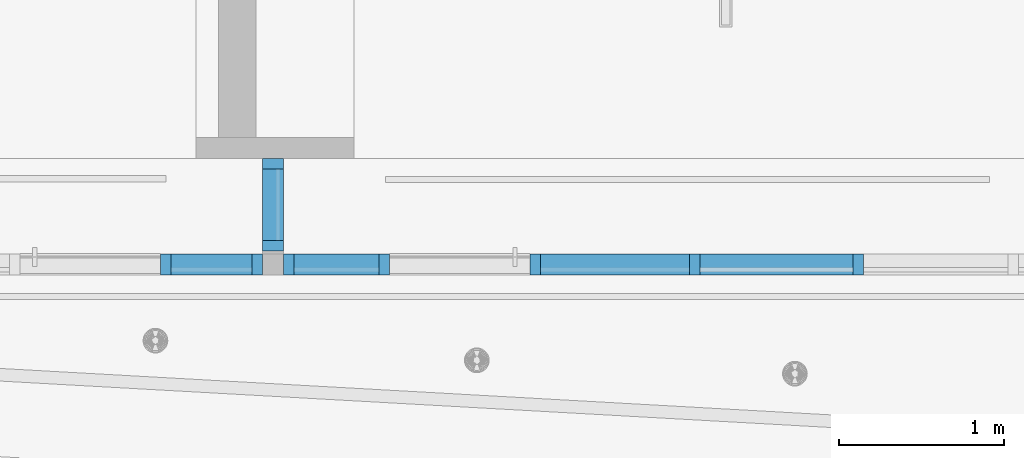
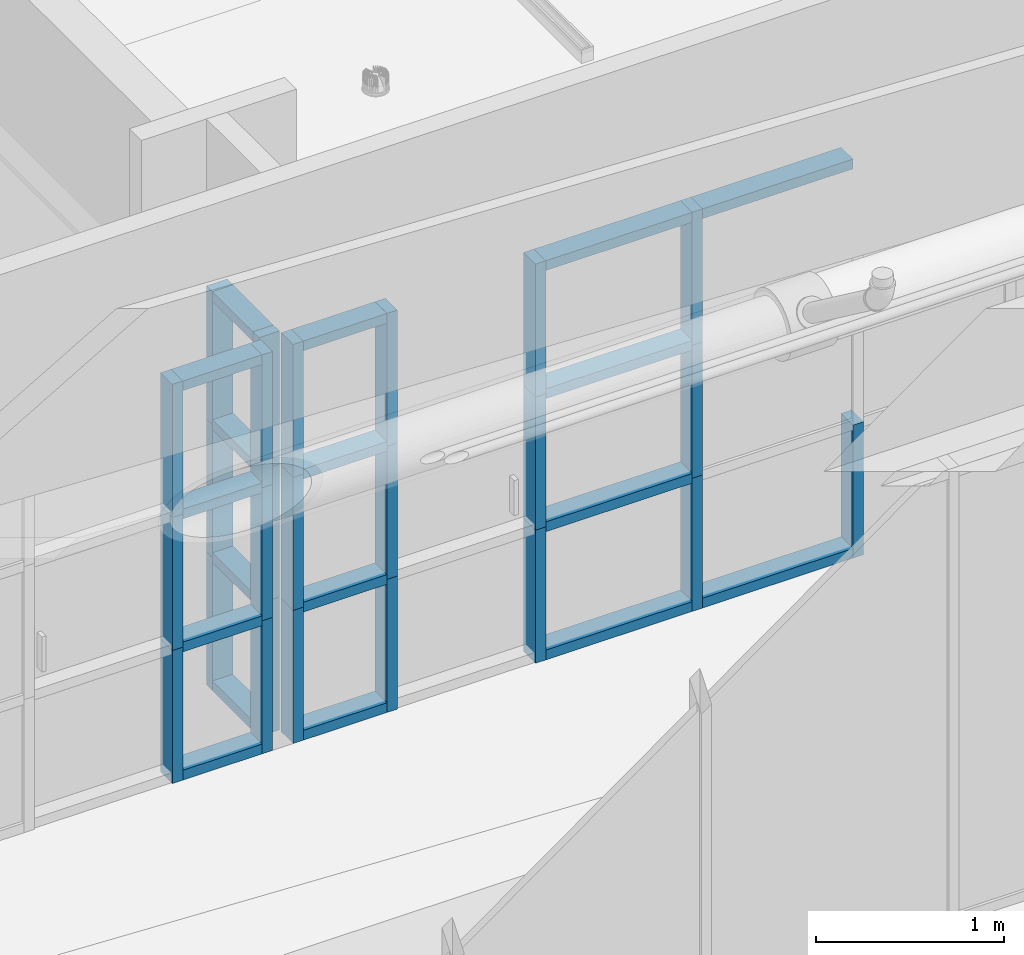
# One storey, part 5 of 108: 43 members, 3 elements without a shape of their own.
"""IFC4 building model written with IfcOpenShell, lengths in feet."""

from ifc_helpers import new_model, entity, si_unit, converted_unit, derived_unit, direction, frame, origin, origin_2d_with_axis, place, context, subcontext, project, spatial, rectangle, extrude, source, transform, mapped, material, material_profile, profile_set, profile_usage, type_object, type_shapes, element, aggregate, save


model = new_model("IFC4")

# Units and contexts
model_context = context("Model", 3, precision=0.0001, world=origin(), true_north=direction((6.12303176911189e-17, 1.0)))
body_context = subcontext(model_context, "Body", "Model", "MODEL_VIEW")
ifc_project = project(units=[converted_unit("LENGTHUNIT", "FOOT", entity("IfcRatioMeasure", 0.3048), si_unit("LENGTHUNIT", "METRE"), dimensions=[1, 0, 0, 0, 0, 0, 0]), converted_unit("AREAUNIT", "SQUARE FOOT", entity("IfcRatioMeasure", 0.09290304), si_unit("AREAUNIT", "SQUARE_METRE"), dimensions=[2, 0, 0, 0, 0, 0, 0]), converted_unit("VOLUMEUNIT", "CUBIC FOOT", entity("IfcRatioMeasure", 0.028316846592), si_unit("VOLUMEUNIT", "CUBIC_METRE"), dimensions=[3, 0, 0, 0, 0, 0, 0]), converted_unit("PLANEANGLEUNIT", "DEGREE", entity("IfcRatioMeasure", 0.0174532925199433), si_unit("PLANEANGLEUNIT", "RADIAN"), dimensions=[0, 0, 0, 0, 0, 0, 0]), si_unit("MASSUNIT", "GRAM", prefix="KILO"), derived_unit("MASSDENSITYUNIT", [(si_unit("MASSUNIT", "GRAM", prefix="KILO"), 1), (si_unit("LENGTHUNIT", "METRE"), -3)]), si_unit("TIMEUNIT", "SECOND"), si_unit("FREQUENCYUNIT", "HERTZ"), si_unit("THERMODYNAMICTEMPERATUREUNIT", "DEGREE_CELSIUS"), derived_unit("THERMALTRANSMITTANCEUNIT", [(si_unit("MASSUNIT", "GRAM", prefix="KILO"), 1), (si_unit("THERMODYNAMICTEMPERATUREUNIT", "KELVIN"), -1), (si_unit("TIMEUNIT", "SECOND"), -3)]), derived_unit("VOLUMETRICFLOWRATEUNIT", [(si_unit("LENGTHUNIT", "METRE"), 3), (si_unit("TIMEUNIT", "SECOND"), -1)]), si_unit("ELECTRICCURRENTUNIT", "AMPERE"), si_unit("ELECTRICVOLTAGEUNIT", "VOLT"), si_unit("POWERUNIT", "WATT"), si_unit("FORCEUNIT", "NEWTON"), si_unit("ILLUMINANCEUNIT", "LUX"), si_unit("LUMINOUSFLUXUNIT", "LUMEN"), si_unit("LUMINOUSINTENSITYUNIT", "CANDELA"), derived_unit("USERDEFINED", [(si_unit("MASSUNIT", "GRAM", prefix="KILO"), -1), (si_unit("LENGTHUNIT", "METRE"), -2), (si_unit("TIMEUNIT", "SECOND"), 3), (si_unit("LUMINOUSFLUXUNIT", "LUMEN"), 1)]), derived_unit("LINEARVELOCITYUNIT", [(si_unit("LENGTHUNIT", "METRE"), 1), (si_unit("TIMEUNIT", "SECOND"), -1)]), si_unit("PRESSUREUNIT", "PASCAL"), derived_unit("USERDEFINED", [(si_unit("LENGTHUNIT", "METRE"), -2), (si_unit("MASSUNIT", "GRAM", prefix="KILO"), 1), (si_unit("TIMEUNIT", "SECOND"), -2)])], contexts=[model_context])

# Site, building, storey
site_placement = place(None, origin())
site = spatial("IfcSite", under=ifc_project, at=site_placement, Name="Default", CompositionType="ELEMENT")
building_placement = place(site_placement, origin())
building = spatial("IfcBuilding", under=site, at=building_placement, CompositionType="ELEMENT")
storey_placement = place(building_placement, frame((0.0, 0.0, 168.0)))
storey = spatial("IfcBuildingStorey", under=building, at=storey_placement, Name="Level 15", CompositionType="ELEMENT", Elevation=168.0)

# Curtain wall, member
curtain_wall_type = type_object("IfcCurtainWallType", Name="Curtain Wall:Storefront 02", PredefinedType="NOTDEFINED")
curtain_wall_1_placement = place(storey_placement, frame((0.0, 0.0, -168.0)))
curtain_wall_1 = element("IfcCurtainWall", 1, at=curtain_wall_1_placement, inside=storey, type_object=curtain_wall_type, Name="Curtain Wall:Storefront 02", ObjectType="Curtain Wall:Storefront 02", PredefinedType="NOTDEFINED")
ifc_material = material(Name="Aluminum", Category="Metal")
ifc_material_profile = material_profile(ifc_material, rectangle(XDim=0.416666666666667, YDim=0.208333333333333, at=origin_2d_with_axis()), Name="2.5\" x 5\" rectangular")
ifc_profile_set = profile_set([ifc_material_profile], Name="2.5\" x 5\" rectangular")
ifc_profile_usage_1 = profile_usage(ifc_profile_set)
member_type_1 = type_object("IfcMemberType", Name="2.5\" x 5\" rectangular", PredefinedType="MEMBER", material=ifc_profile_set)
shared_shape_1 = source(origin(), body_context, "Body", "SweptSolid", [
    extrude(rectangle(XDim=0.416666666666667, YDim=0.208333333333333, at=origin_2d_with_axis()), frame((-0.104166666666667, 0.0, -2.84094160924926), z_axis=(0.0, 0.0, 1.0), x_axis=(0.0, -1.0, 0.0)), (0.0, 0.0, 1.0), 2.84094160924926),
])
type_shapes(member_type_1, [shared_shape_1])
member_1_placement = place(storey_placement, frame((13.422037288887, -11.8802703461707, 0.0), z_axis=(0.0, 0.0, -1.0), x_axis=(-1.0, 0.0, 0.0)))
member_1 = element("IfcMember", 2, at=member_1_placement, type_object=member_type_1, material=ifc_profile_usage_1, Name="Rectangular Mullion:2.5\" x 5\" rectangular", ObjectType="Rectangular Mullion:2.5\" x 5\" rectangular", PredefinedType="MULLION", context=body_context, shape_type="MappedRepresentation", body=[
    mapped(shared_shape_1, transform((0.0, 0.0, 0.0), scale=1.0)),
])

# Curtain wall, members
curtain_wall_2_placement = place(storey_placement, frame((0.0, 0.0, -168.0)))
curtain_wall_2 = element("IfcCurtainWall", 3, at=curtain_wall_2_placement, inside=storey, type_object=curtain_wall_type, Name="Curtain Wall:Storefront 02", ObjectType="Curtain Wall:Storefront 02", PredefinedType="NOTDEFINED")
ifc_profile_usage_2 = profile_usage(ifc_profile_set)
member_2_placement = place(storey_placement, frame((13.2137039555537, -11.609601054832, 0.0), z_axis=(0.0, 0.0, -1.0), x_axis=(0.0, -1.0, 0.0)))
member_2 = element("IfcMember", 4, at=member_2_placement, type_object=member_type_1, material=ifc_profile_usage_2, Name="Rectangular Mullion:2.5\" x 5\" rectangular", ObjectType="Rectangular Mullion:2.5\" x 5\" rectangular", PredefinedType="MULLION", context=body_context, shape_type="MappedRepresentation", body=[
    mapped(shared_shape_1, transform((0.0, 0.0, 0.0), scale=1.0)),
])
ifc_profile_usage_3 = profile_usage(ifc_profile_set)
member_type_2 = type_object("IfcMemberType", Name="2.5\" x 5\" rectangular", PredefinedType="MEMBER", material=ifc_profile_set)
shared_shape_2 = source(origin(), body_context, "Body", "SweptSolid", [
    extrude(rectangle(XDim=0.416666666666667, YDim=0.208333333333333, at=origin_2d_with_axis()), frame((-0.104166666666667, 0.0, -2.84094160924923), z_axis=(0.0, 0.0, 1.0), x_axis=(0.0, -1.0, 0.0)), (0.0, 0.0, 1.0), 2.84094160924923),
])
type_shapes(member_type_2, [shared_shape_2])
member_3_placement = place(storey_placement, frame((13.2137039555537, -9.7762677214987, 8.52282482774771), z_axis=(0.0, 0.0, 1.0), x_axis=(0.0, 1.0, 0.0)))
member_3 = element("IfcMember", 5, at=member_3_placement, type_object=member_type_2, material=ifc_profile_usage_3, Name="Rectangular Mullion:2.5\" x 5\" rectangular", ObjectType="Rectangular Mullion:2.5\" x 5\" rectangular", PredefinedType="MULLION", context=body_context, shape_type="MappedRepresentation", body=[
    mapped(shared_shape_2, transform((0.0, 0.0, 0.0), scale=1.0)),
])

# Curtain wall, member
curtain_wall_3_placement = place(storey_placement, frame((0.0, 0.0, -168.0)))
curtain_wall_3 = element("IfcCurtainWall", 6, at=curtain_wall_3_placement, inside=storey, type_object=curtain_wall_type, Name="Curtain Wall:Storefront 02", ObjectType="Curtain Wall:Storefront 02", PredefinedType="NOTDEFINED")
ifc_profile_usage_4 = profile_usage(ifc_profile_set)
member_4_placement = place(storey_placement, frame((13.0053706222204, -11.8802703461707, 8.52282482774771)))
member_4 = element("IfcMember", 7, at=member_4_placement, type_object=member_type_2, material=ifc_profile_usage_4, Name="Rectangular Mullion:2.5\" x 5\" rectangular", ObjectType="Rectangular Mullion:2.5\" x 5\" rectangular", PredefinedType="MULLION", context=body_context, shape_type="MappedRepresentation", body=[
    mapped(shared_shape_2, transform((0.0, 0.0, 0.0), scale=1.0)),
])

# Member
ifc_profile_usage_5 = profile_usage(ifc_profile_set)
member_type_3 = type_object("IfcMemberType", Name="2.5\" x 5\" rectangular", PredefinedType="MEMBER", material=ifc_profile_set)
shared_shape_3 = source(origin(), body_context, "Body", "SweptSolid", [
    extrude(rectangle(XDim=0.416666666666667, YDim=0.208333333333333, at=origin_2d_with_axis()), frame((-0.104166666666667, 0.0, -2.84094160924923), z_axis=(0.0, 0.0, 1.0), x_axis=(0.0, -1.0, 0.0)), (0.0, 0.0, 1.0), 2.84094160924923),
])
type_shapes(member_type_3, [shared_shape_3])
member_5_placement = place(storey_placement, frame((13.422037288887, -11.8802703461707, 5.68188321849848), z_axis=(0.0, 0.0, -1.0), x_axis=(-1.0, 0.0, 0.0)))
member_5 = element("IfcMember", 8, at=member_5_placement, type_object=member_type_3, material=ifc_profile_usage_5, Name="Rectangular Mullion:2.5\" x 5\" rectangular", ObjectType="Rectangular Mullion:2.5\" x 5\" rectangular", PredefinedType="MULLION", context=body_context, shape_type="MappedRepresentation", body=[
    mapped(shared_shape_3, transform((0.0, 0.0, 0.0), scale=1.0)),
])

ifc_profile_usage_6 = profile_usage(ifc_profile_set)
member_6_placement = place(storey_placement, frame((13.2137039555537, -11.609601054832, 5.68188321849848), z_axis=(0.0, 0.0, -1.0), x_axis=(0.0, -1.0, 0.0)))
member_6 = element("IfcMember", 9, at=member_6_placement, type_object=member_type_3, material=ifc_profile_usage_6, Name="Rectangular Mullion:2.5\" x 5\" rectangular", ObjectType="Rectangular Mullion:2.5\" x 5\" rectangular", PredefinedType="MULLION", context=body_context, shape_type="MappedRepresentation", body=[
    mapped(shared_shape_3, transform((0.0, 0.0, 0.0), scale=1.0)),
])

ifc_profile_usage_7 = profile_usage(ifc_profile_set)
member_type_4 = type_object("IfcMemberType", Name="2.5\" x 5\" rectangular", PredefinedType="MEMBER", material=ifc_profile_set)
shared_shape_4 = source(origin(), body_context, "Body", "SweptSolid", [
    extrude(rectangle(XDim=0.416666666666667, YDim=0.208333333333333, at=origin_2d_with_axis()), frame((-0.104166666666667, 0.0, -2.84094160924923), z_axis=(0.0, 0.0, 1.0), x_axis=(0.0, -1.0, 0.0)), (0.0, 0.0, 1.0), 2.84094160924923),
])
type_shapes(member_type_4, [shared_shape_4])
member_7_placement = place(storey_placement, frame((13.2137039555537, -9.7762677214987, 5.68188321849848), z_axis=(0.0, 0.0, 1.0), x_axis=(0.0, 1.0, 0.0)))
member_7 = element("IfcMember", 10, at=member_7_placement, type_object=member_type_4, material=ifc_profile_usage_7, Name="Rectangular Mullion:2.5\" x 5\" rectangular", ObjectType="Rectangular Mullion:2.5\" x 5\" rectangular", PredefinedType="MULLION", context=body_context, shape_type="MappedRepresentation", body=[
    mapped(shared_shape_4, transform((0.0, 0.0, 0.0), scale=1.0)),
])

ifc_profile_usage_8 = profile_usage(ifc_profile_set)
member_8_placement = place(storey_placement, frame((13.0053706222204, -11.8802703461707, 5.68188321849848)))
member_8 = element("IfcMember", 11, at=member_8_placement, type_object=member_type_4, material=ifc_profile_usage_8, Name="Rectangular Mullion:2.5\" x 5\" rectangular", ObjectType="Rectangular Mullion:2.5\" x 5\" rectangular", PredefinedType="MULLION", context=body_context, shape_type="MappedRepresentation", body=[
    mapped(shared_shape_4, transform((0.0, 0.0, 0.0), scale=1.0)),
])

ifc_profile_usage_9 = profile_usage(ifc_profile_set)
member_type_5 = type_object("IfcMemberType", Name="2.5\" x 5\" rectangular", PredefinedType="MEMBER", material=ifc_profile_set)
shared_shape_5 = source(origin(), body_context, "Body", "SweptSolid", [
    extrude(rectangle(XDim=0.416666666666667, YDim=0.208333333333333, at=origin_2d_with_axis()), frame((-0.104166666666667, 0.0, -2.84094160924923), z_axis=(0.0, 0.0, 1.0), x_axis=(0.0, -1.0, 0.0)), (0.0, 0.0, 1.0), 2.84094160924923),
])
type_shapes(member_type_5, [shared_shape_5])
member_9_placement = place(storey_placement, frame((13.422037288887, -11.8802703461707, 2.84094160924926), z_axis=(0.0, 0.0, -1.0), x_axis=(-1.0, 0.0, 0.0)))
member_9 = element("IfcMember", 12, at=member_9_placement, type_object=member_type_5, material=ifc_profile_usage_9, Name="Rectangular Mullion:2.5\" x 5\" rectangular", ObjectType="Rectangular Mullion:2.5\" x 5\" rectangular", PredefinedType="MULLION", context=body_context, shape_type="MappedRepresentation", body=[
    mapped(shared_shape_5, transform((0.0, 0.0, 0.0), scale=1.0)),
])

ifc_profile_usage_10 = profile_usage(ifc_profile_set)
member_10_placement = place(storey_placement, frame((13.2137039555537, -11.609601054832, 2.84094160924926), z_axis=(0.0, 0.0, -1.0), x_axis=(0.0, -1.0, 0.0)))
member_10 = element("IfcMember", 13, at=member_10_placement, type_object=member_type_5, material=ifc_profile_usage_10, Name="Rectangular Mullion:2.5\" x 5\" rectangular", ObjectType="Rectangular Mullion:2.5\" x 5\" rectangular", PredefinedType="MULLION", context=body_context, shape_type="MappedRepresentation", body=[
    mapped(shared_shape_5, transform((0.0, 0.0, 0.0), scale=1.0)),
])

ifc_profile_usage_11 = profile_usage(ifc_profile_set)
member_type_6 = type_object("IfcMemberType", Name="2.5\" x 5\" rectangular", PredefinedType="MEMBER", material=ifc_profile_set)
shared_shape_6 = source(origin(), body_context, "Body", "SweptSolid", [
    extrude(rectangle(XDim=0.416666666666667, YDim=0.208333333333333, at=origin_2d_with_axis()), frame((-0.104166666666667, 0.0, -2.84094160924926), z_axis=(0.0, 0.0, 1.0), x_axis=(0.0, -1.0, 0.0)), (0.0, 0.0, 1.0), 2.84094160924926),
])
type_shapes(member_type_6, [shared_shape_6])
member_11_placement = place(storey_placement, frame((13.2137039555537, -9.7762677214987, 2.84094160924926), z_axis=(0.0, 0.0, 1.0), x_axis=(0.0, 1.0, 0.0)))
member_11 = element("IfcMember", 14, at=member_11_placement, type_object=member_type_6, material=ifc_profile_usage_11, Name="Rectangular Mullion:2.5\" x 5\" rectangular", ObjectType="Rectangular Mullion:2.5\" x 5\" rectangular", PredefinedType="MULLION", context=body_context, shape_type="MappedRepresentation", body=[
    mapped(shared_shape_6, transform((0.0, 0.0, 0.0), scale=1.0)),
])

ifc_profile_usage_12 = profile_usage(ifc_profile_set)
member_12_placement = place(storey_placement, frame((13.0053706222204, -11.8802703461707, 2.84094160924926)))
member_12 = element("IfcMember", 15, at=member_12_placement, type_object=member_type_6, material=ifc_profile_usage_12, Name="Rectangular Mullion:2.5\" x 5\" rectangular", ObjectType="Rectangular Mullion:2.5\" x 5\" rectangular", PredefinedType="MULLION", context=body_context, shape_type="MappedRepresentation", body=[
    mapped(shared_shape_6, transform((0.0, 0.0, 0.0), scale=1.0)),
])

ifc_profile_usage_13 = profile_usage(ifc_profile_set)
member_type_7 = type_object("IfcMemberType", Name="2.5\" x 5\" rectangular", PredefinedType="MEMBER", material=ifc_profile_set)
shared_shape_7 = source(origin(), body_context, "Body", "SweptSolid", [
    extrude(rectangle(XDim=0.416666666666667, YDim=0.208333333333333, at=origin_2d_with_axis()), frame((-0.104166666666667, 0.0, -1.6875), z_axis=(0.0, 0.0, 1.0), x_axis=(0.0, -1.0, 0.0)), (0.0, 0.0, 1.0), 1.6875),
])
type_shapes(member_type_7, [shared_shape_7])
member_13_placement = place(storey_placement, frame((13.6303706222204, -11.8802703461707, 8.52282482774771), z_axis=(-1.0, 0.0, 0.0), x_axis=(0.0, 0.0, 1.0)))
member_13 = element("IfcMember", 16, at=member_13_placement, type_object=member_type_7, material=ifc_profile_usage_13, Name="Rectangular Mullion:2.5\" x 5\" rectangular", ObjectType="Rectangular Mullion:2.5\" x 5\" rectangular", PredefinedType="MULLION", context=body_context, shape_type="MappedRepresentation", body=[
    mapped(shared_shape_7, transform((0.0, 0.0, 0.0), scale=1.0)),
])

ifc_profile_usage_14 = profile_usage(ifc_profile_set)
member_type_8 = type_object("IfcMemberType", Name="2.5\" x 5\" rectangular", PredefinedType="MEMBER", material=ifc_profile_set)
shared_shape_8 = source(origin(), body_context, "Body", "SweptSolid", [
    extrude(rectangle(XDim=0.416666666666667, YDim=0.208333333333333, at=origin_2d_with_axis()), frame((-0.104166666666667, 0.0, -1.60416666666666), z_axis=(0.0, 0.0, 1.0), x_axis=(0.0, -1.0, 0.0)), (0.0, 0.0, 1.0), 1.60416666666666),
])
type_shapes(member_type_8, [shared_shape_8])
member_14_placement = place(storey_placement, frame((12.797037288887, -11.8802703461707, 0.0), z_axis=(1.0, 0.0, 0.0), x_axis=(0.0, 0.0, -1.0)))
member_14 = element("IfcMember", 17, at=member_14_placement, type_object=member_type_8, material=ifc_profile_usage_14, Name="Rectangular Mullion:2.5\" x 5\" rectangular", ObjectType="Rectangular Mullion:2.5\" x 5\" rectangular", PredefinedType="MULLION", context=body_context, shape_type="MappedRepresentation", body=[
    mapped(shared_shape_8, transform((0.0, 0.0, 0.0), scale=1.0)),
])

ifc_profile_usage_15 = profile_usage(ifc_profile_set)
member_type_9 = type_object("IfcMemberType", Name="2.5\" x 5\" rectangular", PredefinedType="MEMBER", material=ifc_profile_set)
shared_shape_9 = source(origin(), body_context, "Body", "SweptSolid", [
    extrude(rectangle(XDim=0.416666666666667, YDim=0.208333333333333, at=origin_2d_with_axis()), frame((-0.104166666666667, 0.0, -1.6875), z_axis=(0.0, 0.0, 1.0), x_axis=(0.0, -1.0, 0.0)), (0.0, 0.0, 1.0), 1.6875),
])
type_shapes(member_type_9, [shared_shape_9])
member_15_placement = place(storey_placement, frame((15.3178706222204, -11.8802703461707, 0.0), z_axis=(1.0, 0.0, 0.0), x_axis=(0.0, 0.0, -1.0)))
member_15 = element("IfcMember", 18, at=member_15_placement, type_object=member_type_9, material=ifc_profile_usage_15, Name="Rectangular Mullion:2.5\" x 5\" rectangular", ObjectType="Rectangular Mullion:2.5\" x 5\" rectangular", PredefinedType="MULLION", context=body_context, shape_type="MappedRepresentation", body=[
    mapped(shared_shape_9, transform((0.0, 0.0, 0.0), scale=1.0)),
])

ifc_profile_usage_16 = profile_usage(ifc_profile_set)
member_type_10 = type_object("IfcMemberType", Name="2.5\" x 5\" rectangular", PredefinedType="MEMBER", material=ifc_profile_set)
shared_shape_10 = source(origin(), body_context, "Body", "SweptSolid", [
    extrude(rectangle(XDim=0.416666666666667, YDim=0.208333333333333, at=origin_2d_with_axis()), frame((0.0, 0.0, -2.84094160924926), z_axis=(0.0, 0.0, 1.0), x_axis=(0.0, -1.0, 0.0)), (0.0, 0.0, 1.0), 2.84094160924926),
])
type_shapes(member_type_10, [shared_shape_10])
member_16_placement = place(storey_placement, frame((15.422037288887, -11.8802703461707, 0.0), z_axis=(0.0, 0.0, -1.0), x_axis=(-1.0, 0.0, 0.0)))
member_16 = element("IfcMember", 19, at=member_16_placement, type_object=member_type_10, material=ifc_profile_usage_16, Name="Rectangular Mullion:2.5\" x 5\" rectangular", ObjectType="Rectangular Mullion:2.5\" x 5\" rectangular", PredefinedType="MULLION", context=body_context, shape_type="MappedRepresentation", body=[
    mapped(shared_shape_10, transform((0.0, 0.0, 0.0), scale=1.0)),
])

ifc_profile_usage_17 = profile_usage(ifc_profile_set)
member_17_placement = place(storey_placement, frame((18.422037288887, -11.8802703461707, 0.0), z_axis=(0.0, 0.0, -1.0), x_axis=(-1.0, 0.0, 0.0)))
member_17 = element("IfcMember", 20, at=member_17_placement, type_object=member_type_10, material=ifc_profile_usage_17, Name="Rectangular Mullion:2.5\" x 5\" rectangular", ObjectType="Rectangular Mullion:2.5\" x 5\" rectangular", PredefinedType="MULLION", context=body_context, shape_type="MappedRepresentation", body=[
    mapped(shared_shape_10, transform((0.0, 0.0, 0.0), scale=1.0)),
])

ifc_profile_usage_18 = profile_usage(ifc_profile_set)
member_18_placement = place(storey_placement, frame((21.5887039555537, -11.8802703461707, 0.0), z_axis=(0.0, 0.0, -1.0), x_axis=(-1.0, 0.0, 0.0)))
member_18 = element("IfcMember", 21, at=member_18_placement, type_object=member_type_10, material=ifc_profile_usage_18, Name="Rectangular Mullion:2.5\" x 5\" rectangular", ObjectType="Rectangular Mullion:2.5\" x 5\" rectangular", PredefinedType="MULLION", context=body_context, shape_type="MappedRepresentation", body=[
    mapped(shared_shape_10, transform((0.0, 0.0, 0.0), scale=1.0)),
])

ifc_profile_usage_19 = profile_usage(ifc_profile_set)
member_19_placement = place(storey_placement, frame((24.8387039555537, -11.8802703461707, 0.0), z_axis=(0.0, 0.0, -1.0), x_axis=(-1.0, 0.0, 0.0)))
member_19 = element("IfcMember", 22, at=member_19_placement, type_object=member_type_10, material=ifc_profile_usage_19, Name="Rectangular Mullion:2.5\" x 5\" rectangular", ObjectType="Rectangular Mullion:2.5\" x 5\" rectangular", PredefinedType="MULLION", context=body_context, shape_type="MappedRepresentation", body=[
    mapped(shared_shape_10, transform((0.0, 0.0, 0.0), scale=1.0)),
])

ifc_profile_usage_20 = profile_usage(ifc_profile_set)
member_20_placement = place(storey_placement, frame((11.0887039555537, -11.8802703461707, 0.0), z_axis=(0.0, 0.0, -1.0), x_axis=(-1.0, 0.0, 0.0)))
member_20 = element("IfcMember", 23, at=member_20_placement, type_object=member_type_10, material=ifc_profile_usage_20, Name="Rectangular Mullion:2.5\" x 5\" rectangular", ObjectType="Rectangular Mullion:2.5\" x 5\" rectangular", PredefinedType="MULLION", context=body_context, shape_type="MappedRepresentation", body=[
    mapped(shared_shape_10, transform((0.0, 0.0, 0.0), scale=1.0)),
])

ifc_profile_usage_21 = profile_usage(ifc_profile_set)
member_type_11 = type_object("IfcMemberType", Name="2.5\" x 5\" rectangular", PredefinedType="MEMBER", material=ifc_profile_set)
shared_shape_11 = source(origin(), body_context, "Body", "SweptSolid", [
    extrude(rectangle(XDim=0.416666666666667, YDim=0.208333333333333, at=origin_2d_with_axis()), frame((-0.104166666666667, 0.0, -2.95833333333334), z_axis=(0.0, 0.0, 1.0), x_axis=(0.0, -1.0, 0.0)), (0.0, 0.0, 1.0), 2.95833333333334),
])
type_shapes(member_type_11, [shared_shape_11])
member_21_placement = place(storey_placement, frame((18.5262039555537, -11.8802703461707, 8.52282482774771), z_axis=(-1.0, 0.0, 0.0), x_axis=(0.0, 0.0, 1.0)))
member_21 = element("IfcMember", 24, at=member_21_placement, type_object=member_type_11, material=ifc_profile_usage_21, Name="Rectangular Mullion:2.5\" x 5\" rectangular", ObjectType="Rectangular Mullion:2.5\" x 5\" rectangular", PredefinedType="MULLION", context=body_context, shape_type="MappedRepresentation", body=[
    mapped(shared_shape_11, transform((0.0, 0.0, 0.0), scale=1.0)),
])

ifc_profile_usage_22 = profile_usage(ifc_profile_set)
member_type_12 = type_object("IfcMemberType", Name="2.5\" x 5\" rectangular", PredefinedType="MEMBER", material=ifc_profile_set)
shared_shape_12 = source(origin(), body_context, "Body", "SweptSolid", [
    extrude(rectangle(XDim=0.416666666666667, YDim=0.208333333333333, at=origin_2d_with_axis()), frame((-0.104166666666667, 0.0, -3.04166666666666), z_axis=(0.0, 0.0, 1.0), x_axis=(0.0, -1.0, 0.0)), (0.0, 0.0, 1.0), 3.04166666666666),
])
type_shapes(member_type_12, [shared_shape_12])
member_22_placement = place(storey_placement, frame((21.6928706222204, -11.8802703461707, 8.52282482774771), z_axis=(-1.0, 0.0, 0.0), x_axis=(0.0, 0.0, 1.0)))
member_22 = element("IfcMember", 25, at=member_22_placement, type_object=member_type_12, material=ifc_profile_usage_22, Name="Rectangular Mullion:2.5\" x 5\" rectangular", ObjectType="Rectangular Mullion:2.5\" x 5\" rectangular", PredefinedType="MULLION", context=body_context, shape_type="MappedRepresentation", body=[
    mapped(shared_shape_12, transform((0.0, 0.0, 0.0), scale=1.0)),
])

ifc_profile_usage_23 = profile_usage(ifc_profile_set)
member_type_13 = type_object("IfcMemberType", Name="2.5\" x 5\" rectangular", PredefinedType="MEMBER", material=ifc_profile_set)
shared_shape_13 = source(origin(), body_context, "Body", "SweptSolid", [
    extrude(rectangle(XDim=0.416666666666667, YDim=0.208333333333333, at=origin_2d_with_axis()), frame((-0.104166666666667, 0.0, -2.95833333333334), z_axis=(0.0, 0.0, 1.0), x_axis=(0.0, -1.0, 0.0)), (0.0, 0.0, 1.0), 2.95833333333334),
])
type_shapes(member_type_13, [shared_shape_13])
member_23_placement = place(storey_placement, frame((21.484537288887, -11.8802703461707, 0.0), z_axis=(1.0, 0.0, 0.0), x_axis=(0.0, 0.0, -1.0)))
member_23 = element("IfcMember", 26, at=member_23_placement, type_object=member_type_13, material=ifc_profile_usage_23, Name="Rectangular Mullion:2.5\" x 5\" rectangular", ObjectType="Rectangular Mullion:2.5\" x 5\" rectangular", PredefinedType="MULLION", context=body_context, shape_type="MappedRepresentation", body=[
    mapped(shared_shape_13, transform((0.0, 0.0, 0.0), scale=1.0)),
])

ifc_profile_usage_24 = profile_usage(ifc_profile_set)
member_type_14 = type_object("IfcMemberType", Name="2.5\" x 5\" rectangular", PredefinedType="MEMBER", material=ifc_profile_set)
shared_shape_14 = source(origin(), body_context, "Body", "SweptSolid", [
    extrude(rectangle(XDim=0.416666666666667, YDim=0.208333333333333, at=origin_2d_with_axis()), frame((-0.104166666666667, 0.0, -3.04166666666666), z_axis=(0.0, 0.0, 1.0), x_axis=(0.0, -1.0, 0.0)), (0.0, 0.0, 1.0), 3.04166666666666),
])
type_shapes(member_type_14, [shared_shape_14])
member_24_placement = place(storey_placement, frame((24.734537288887, -11.8802703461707, 0.0), z_axis=(1.0, 0.0, 0.0), x_axis=(0.0, 0.0, -1.0)))
member_24 = element("IfcMember", 27, at=member_24_placement, type_object=member_type_14, material=ifc_profile_usage_24, Name="Rectangular Mullion:2.5\" x 5\" rectangular", ObjectType="Rectangular Mullion:2.5\" x 5\" rectangular", PredefinedType="MULLION", context=body_context, shape_type="MappedRepresentation", body=[
    mapped(shared_shape_14, transform((0.0, 0.0, 0.0), scale=1.0)),
])

ifc_profile_usage_25 = profile_usage(ifc_profile_set)
member_type_15 = type_object("IfcMemberType", Name="2.5\" x 5\" rectangular", PredefinedType="MEMBER", material=ifc_profile_set)
shared_shape_15 = source(origin(), body_context, "Body", "SweptSolid", [
    extrude(rectangle(XDim=0.416666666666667, YDim=0.208333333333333, at=origin_2d_with_axis()), frame((-0.104166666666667, 0.0, -1.60416666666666), z_axis=(0.0, 0.0, 1.0), x_axis=(0.0, -1.0, 0.0)), (0.0, 0.0, 1.0), 1.60416666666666),
])
type_shapes(member_type_15, [shared_shape_15])
member_25_placement = place(storey_placement, frame((11.1928706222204, -11.8802703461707, 8.52282482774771), z_axis=(-1.0, 0.0, 0.0), x_axis=(0.0, 0.0, 1.0)))
member_25 = element("IfcMember", 28, at=member_25_placement, type_object=member_type_15, material=ifc_profile_usage_25, Name="Rectangular Mullion:2.5\" x 5\" rectangular", ObjectType="Rectangular Mullion:2.5\" x 5\" rectangular", PredefinedType="MULLION", context=body_context, shape_type="MappedRepresentation", body=[
    mapped(shared_shape_15, transform((0.0, 0.0, 0.0), scale=1.0)),
])

ifc_profile_usage_26 = profile_usage(ifc_profile_set)
member_type_16 = type_object("IfcMemberType", Name="2.5\" x 5\" rectangular", PredefinedType="MEMBER", material=ifc_profile_set)
shared_shape_16 = source(origin(), body_context, "Body", "SweptSolid", [
    extrude(rectangle(XDim=0.416666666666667, YDim=0.208333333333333, at=origin_2d_with_axis()), frame((0.0, 0.0, -1.60416666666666), z_axis=(0.0, 0.0, 1.0), x_axis=(0.0, -1.0, 0.0)), (0.0, 0.0, 1.0), 1.60416666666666),
])
type_shapes(member_type_16, [shared_shape_16])
member_26_placement = place(storey_placement, frame((11.1928706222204, -11.8802703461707, 5.68188321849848), z_axis=(-1.0, 0.0, 0.0), x_axis=(0.0, 0.0, 1.0)))
member_26 = element("IfcMember", 29, at=member_26_placement, type_object=member_type_16, material=ifc_profile_usage_26, Name="Rectangular Mullion:2.5\" x 5\" rectangular", ObjectType="Rectangular Mullion:2.5\" x 5\" rectangular", PredefinedType="MULLION", context=body_context, shape_type="MappedRepresentation", body=[
    mapped(shared_shape_16, transform((0.0, 0.0, 0.0), scale=1.0)),
])

ifc_profile_usage_27 = profile_usage(ifc_profile_set)
member_27_placement = place(storey_placement, frame((11.1928706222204, -11.8802703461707, 2.84094160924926), z_axis=(-1.0, 0.0, 0.0), x_axis=(0.0, 0.0, 1.0)))
member_27 = element("IfcMember", 30, at=member_27_placement, type_object=member_type_16, material=ifc_profile_usage_27, Name="Rectangular Mullion:2.5\" x 5\" rectangular", ObjectType="Rectangular Mullion:2.5\" x 5\" rectangular", PredefinedType="MULLION", context=body_context, shape_type="MappedRepresentation", body=[
    mapped(shared_shape_16, transform((0.0, 0.0, 0.0), scale=1.0)),
])

ifc_profile_usage_28 = profile_usage(ifc_profile_set)
member_type_17 = type_object("IfcMemberType", Name="2.5\" x 5\" rectangular", PredefinedType="MEMBER", material=ifc_profile_set)
shared_shape_17 = source(origin(), body_context, "Body", "SweptSolid", [
    extrude(rectangle(XDim=0.416666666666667, YDim=0.208333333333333, at=origin_2d_with_axis()), frame((0.0, 0.0, -2.95833333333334), z_axis=(0.0, 0.0, 1.0), x_axis=(0.0, -1.0, 0.0)), (0.0, 0.0, 1.0), 2.95833333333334),
])
type_shapes(member_type_17, [shared_shape_17])
member_28_placement = place(storey_placement, frame((18.5262039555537, -11.8802703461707, 5.68188321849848), z_axis=(-1.0, 0.0, 0.0), x_axis=(0.0, 0.0, 1.0)))
member_28 = element("IfcMember", 31, at=member_28_placement, type_object=member_type_17, material=ifc_profile_usage_28, Name="Rectangular Mullion:2.5\" x 5\" rectangular", ObjectType="Rectangular Mullion:2.5\" x 5\" rectangular", PredefinedType="MULLION", context=body_context, shape_type="MappedRepresentation", body=[
    mapped(shared_shape_17, transform((0.0, 0.0, 0.0), scale=1.0)),
])

ifc_profile_usage_29 = profile_usage(ifc_profile_set)
member_29_placement = place(storey_placement, frame((18.5262039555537, -11.8802703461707, 2.84094160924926), z_axis=(-1.0, 0.0, 0.0), x_axis=(0.0, 0.0, 1.0)))
member_29 = element("IfcMember", 32, at=member_29_placement, type_object=member_type_17, material=ifc_profile_usage_29, Name="Rectangular Mullion:2.5\" x 5\" rectangular", ObjectType="Rectangular Mullion:2.5\" x 5\" rectangular", PredefinedType="MULLION", context=body_context, shape_type="MappedRepresentation", body=[
    mapped(shared_shape_17, transform((0.0, 0.0, 0.0), scale=1.0)),
])

ifc_profile_usage_30 = profile_usage(ifc_profile_set)
member_type_18 = type_object("IfcMemberType", Name="2.5\" x 5\" rectangular", PredefinedType="MEMBER", material=ifc_profile_set)
shared_shape_18 = source(origin(), body_context, "Body", "SweptSolid", [
    extrude(rectangle(XDim=0.416666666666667, YDim=0.208333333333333, at=origin_2d_with_axis()), frame((0.0, 0.0, -1.6875), z_axis=(0.0, 0.0, 1.0), x_axis=(0.0, -1.0, 0.0)), (0.0, 0.0, 1.0), 1.6875),
])
type_shapes(member_type_18, [shared_shape_18])
member_30_placement = place(storey_placement, frame((13.6303706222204, -11.8802703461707, 5.68188321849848), z_axis=(-1.0, 0.0, 0.0), x_axis=(0.0, 0.0, 1.0)))
member_30 = element("IfcMember", 33, at=member_30_placement, type_object=member_type_18, material=ifc_profile_usage_30, Name="Rectangular Mullion:2.5\" x 5\" rectangular", ObjectType="Rectangular Mullion:2.5\" x 5\" rectangular", PredefinedType="MULLION", context=body_context, shape_type="MappedRepresentation", body=[
    mapped(shared_shape_18, transform((0.0, 0.0, 0.0), scale=1.0)),
])

ifc_profile_usage_31 = profile_usage(ifc_profile_set)
member_31_placement = place(storey_placement, frame((13.6303706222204, -11.8802703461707, 2.84094160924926), z_axis=(-1.0, 0.0, 0.0), x_axis=(0.0, 0.0, 1.0)))
member_31 = element("IfcMember", 34, at=member_31_placement, type_object=member_type_18, material=ifc_profile_usage_31, Name="Rectangular Mullion:2.5\" x 5\" rectangular", ObjectType="Rectangular Mullion:2.5\" x 5\" rectangular", PredefinedType="MULLION", context=body_context, shape_type="MappedRepresentation", body=[
    mapped(shared_shape_18, transform((0.0, 0.0, 0.0), scale=1.0)),
])

ifc_profile_usage_32 = profile_usage(ifc_profile_set)
member_type_19 = type_object("IfcMemberType", Name="2.5\" x 5\" rectangular", PredefinedType="MEMBER", material=ifc_profile_set)
shared_shape_19 = source(origin(), body_context, "Body", "SweptSolid", [
    extrude(rectangle(XDim=0.416666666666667, YDim=0.208333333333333, at=origin_2d_with_axis()), frame((0.0, 0.0, -2.84094160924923), z_axis=(0.0, 0.0, 1.0), x_axis=(0.0, -1.0, 0.0)), (0.0, 0.0, 1.0), 2.84094160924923),
])
type_shapes(member_type_19, [shared_shape_19])
member_32_placement = place(storey_placement, frame((21.5887039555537, -11.8802703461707, 5.68188321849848), z_axis=(0.0, 0.0, -1.0), x_axis=(-1.0, 0.0, 0.0)))
member_32 = element("IfcMember", 35, at=member_32_placement, type_object=member_type_19, material=ifc_profile_usage_32, Name="Rectangular Mullion:2.5\" x 5\" rectangular", ObjectType="Rectangular Mullion:2.5\" x 5\" rectangular", PredefinedType="MULLION", context=body_context, shape_type="MappedRepresentation", body=[
    mapped(shared_shape_19, transform((0.0, 0.0, 0.0), scale=1.0)),
])

ifc_profile_usage_33 = profile_usage(ifc_profile_set)
member_33_placement = place(storey_placement, frame((18.422037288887, -11.8802703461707, 5.68188321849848), z_axis=(0.0, 0.0, -1.0), x_axis=(-1.0, 0.0, 0.0)))
member_33 = element("IfcMember", 36, at=member_33_placement, type_object=member_type_19, material=ifc_profile_usage_33, Name="Rectangular Mullion:2.5\" x 5\" rectangular", ObjectType="Rectangular Mullion:2.5\" x 5\" rectangular", PredefinedType="MULLION", context=body_context, shape_type="MappedRepresentation", body=[
    mapped(shared_shape_19, transform((0.0, 0.0, 0.0), scale=1.0)),
])

ifc_profile_usage_34 = profile_usage(ifc_profile_set)
member_34_placement = place(storey_placement, frame((15.422037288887, -11.8802703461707, 5.68188321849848), z_axis=(0.0, 0.0, -1.0), x_axis=(-1.0, 0.0, 0.0)))
member_34 = element("IfcMember", 37, at=member_34_placement, type_object=member_type_19, material=ifc_profile_usage_34, Name="Rectangular Mullion:2.5\" x 5\" rectangular", ObjectType="Rectangular Mullion:2.5\" x 5\" rectangular", PredefinedType="MULLION", context=body_context, shape_type="MappedRepresentation", body=[
    mapped(shared_shape_19, transform((0.0, 0.0, 0.0), scale=1.0)),
])

ifc_profile_usage_35 = profile_usage(ifc_profile_set)
member_35_placement = place(storey_placement, frame((11.0887039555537, -11.8802703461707, 5.68188321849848), z_axis=(0.0, 0.0, -1.0), x_axis=(-1.0, 0.0, 0.0)))
member_35 = element("IfcMember", 38, at=member_35_placement, type_object=member_type_19, material=ifc_profile_usage_35, Name="Rectangular Mullion:2.5\" x 5\" rectangular", ObjectType="Rectangular Mullion:2.5\" x 5\" rectangular", PredefinedType="MULLION", context=body_context, shape_type="MappedRepresentation", body=[
    mapped(shared_shape_19, transform((0.0, 0.0, 0.0), scale=1.0)),
])

ifc_profile_usage_36 = profile_usage(ifc_profile_set)
member_type_20 = type_object("IfcMemberType", Name="2.5\" x 5\" rectangular", PredefinedType="MEMBER", material=ifc_profile_set)
shared_shape_20 = source(origin(), body_context, "Body", "SweptSolid", [
    extrude(rectangle(XDim=0.416666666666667, YDim=0.208333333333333, at=origin_2d_with_axis()), frame((0.0, 0.0, -2.84094160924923), z_axis=(0.0, 0.0, 1.0), x_axis=(0.0, -1.0, 0.0)), (0.0, 0.0, 1.0), 2.84094160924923),
])
type_shapes(member_type_20, [shared_shape_20])
member_36_placement = place(storey_placement, frame((21.5887039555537, -11.8802703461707, 2.84094160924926), z_axis=(0.0, 0.0, -1.0), x_axis=(-1.0, 0.0, 0.0)))
member_36 = element("IfcMember", 39, at=member_36_placement, type_object=member_type_20, material=ifc_profile_usage_36, Name="Rectangular Mullion:2.5\" x 5\" rectangular", ObjectType="Rectangular Mullion:2.5\" x 5\" rectangular", PredefinedType="MULLION", context=body_context, shape_type="MappedRepresentation", body=[
    mapped(shared_shape_20, transform((0.0, 0.0, 0.0), scale=1.0)),
])

ifc_profile_usage_37 = profile_usage(ifc_profile_set)
member_37_placement = place(storey_placement, frame((18.422037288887, -11.8802703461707, 2.84094160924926), z_axis=(0.0, 0.0, -1.0), x_axis=(-1.0, 0.0, 0.0)))
member_37 = element("IfcMember", 40, at=member_37_placement, type_object=member_type_20, material=ifc_profile_usage_37, Name="Rectangular Mullion:2.5\" x 5\" rectangular", ObjectType="Rectangular Mullion:2.5\" x 5\" rectangular", PredefinedType="MULLION", context=body_context, shape_type="MappedRepresentation", body=[
    mapped(shared_shape_20, transform((0.0, 0.0, 0.0), scale=1.0)),
])

ifc_profile_usage_38 = profile_usage(ifc_profile_set)
member_38_placement = place(storey_placement, frame((15.422037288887, -11.8802703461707, 2.84094160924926), z_axis=(0.0, 0.0, -1.0), x_axis=(-1.0, 0.0, 0.0)))
member_38 = element("IfcMember", 41, at=member_38_placement, type_object=member_type_20, material=ifc_profile_usage_38, Name="Rectangular Mullion:2.5\" x 5\" rectangular", ObjectType="Rectangular Mullion:2.5\" x 5\" rectangular", PredefinedType="MULLION", context=body_context, shape_type="MappedRepresentation", body=[
    mapped(shared_shape_20, transform((0.0, 0.0, 0.0), scale=1.0)),
])

aggregate(curtain_wall_1, [member_13, member_1, member_15, member_16, member_21, member_17, member_22, member_23, member_18, member_24, member_19, member_5, member_28, member_30, member_32, member_33, member_34, member_9, member_29, member_31, member_36, member_37, member_38])

ifc_profile_usage_39 = profile_usage(ifc_profile_set)
member_39_placement = place(storey_placement, frame((11.0887039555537, -11.8802703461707, 2.84094160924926), z_axis=(0.0, 0.0, -1.0), x_axis=(-1.0, 0.0, 0.0)))
member_39 = element("IfcMember", 42, at=member_39_placement, type_object=member_type_20, material=ifc_profile_usage_39, Name="Rectangular Mullion:2.5\" x 5\" rectangular", ObjectType="Rectangular Mullion:2.5\" x 5\" rectangular", PredefinedType="MULLION", context=body_context, shape_type="MappedRepresentation", body=[
    mapped(shared_shape_20, transform((0.0, 0.0, 0.0), scale=1.0)),
])

aggregate(curtain_wall_3, [member_14, member_4, member_25, member_20, member_8, member_26, member_35, member_12, member_27, member_39])

ifc_profile_usage_40 = profile_usage(ifc_profile_set)
member_type_21 = type_object("IfcMemberType", Name="2.5\" x 5\" rectangular", PredefinedType="MEMBER", material=ifc_profile_set)
shared_shape_21 = source(origin(), body_context, "Body", "SweptSolid", [
    extrude(rectangle(XDim=0.416666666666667, YDim=0.208333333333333, at=origin_2d_with_axis()), frame((-0.104166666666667, 0.0, -1.41666666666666), z_axis=(0.0, 0.0, 1.0), x_axis=(0.0, -1.0, 0.0)), (0.0, 0.0, 1.0), 1.41666666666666),
])
type_shapes(member_type_21, [shared_shape_21])
member_40_placement = place(storey_placement, frame((13.2137039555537, -11.4012677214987, 8.52282482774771), z_axis=(0.0, -1.0, 0.0), x_axis=(0.0, 0.0, 1.0)))
member_40 = element("IfcMember", 43, at=member_40_placement, type_object=member_type_21, material=ifc_profile_usage_40, Name="Rectangular Mullion:2.5\" x 5\" rectangular", ObjectType="Rectangular Mullion:2.5\" x 5\" rectangular", PredefinedType="MULLION", context=body_context, shape_type="MappedRepresentation", body=[
    mapped(shared_shape_21, transform((0.0, 0.0, 0.0), scale=1.0)),
])

ifc_profile_usage_41 = profile_usage(ifc_profile_set)
member_type_22 = type_object("IfcMemberType", Name="2.5\" x 5\" rectangular", PredefinedType="MEMBER", material=ifc_profile_set)
shared_shape_22 = source(origin(), body_context, "Body", "SweptSolid", [
    extrude(rectangle(XDim=0.416666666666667, YDim=0.208333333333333, at=origin_2d_with_axis()), frame((-0.104166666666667, 0.0, -1.41666666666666), z_axis=(0.0, 0.0, 1.0), x_axis=(0.0, -1.0, 0.0)), (0.0, 0.0, 1.0), 1.41666666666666),
])
type_shapes(member_type_22, [shared_shape_22])
member_41_placement = place(storey_placement, frame((13.2137039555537, -9.98460105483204, 0.0), z_axis=(0.0, 1.0, 0.0), x_axis=(0.0, 0.0, -1.0)))
member_41 = element("IfcMember", 44, at=member_41_placement, type_object=member_type_22, material=ifc_profile_usage_41, Name="Rectangular Mullion:2.5\" x 5\" rectangular", ObjectType="Rectangular Mullion:2.5\" x 5\" rectangular", PredefinedType="MULLION", context=body_context, shape_type="MappedRepresentation", body=[
    mapped(shared_shape_22, transform((0.0, 0.0, 0.0), scale=1.0)),
])

ifc_profile_usage_42 = profile_usage(ifc_profile_set)
member_type_23 = type_object("IfcMemberType", Name="2.5\" x 5\" rectangular", PredefinedType="MEMBER", material=ifc_profile_set)
shared_shape_23 = source(origin(), body_context, "Body", "SweptSolid", [
    extrude(rectangle(XDim=0.416666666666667, YDim=0.208333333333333, at=origin_2d_with_axis()), frame((0.0, 0.0, -1.41666666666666), z_axis=(0.0, 0.0, 1.0), x_axis=(0.0, -1.0, 0.0)), (0.0, 0.0, 1.0), 1.41666666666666),
])
type_shapes(member_type_23, [shared_shape_23])
member_42_placement = place(storey_placement, frame((13.2137039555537, -11.4012677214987, 5.68188321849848), z_axis=(0.0, -1.0, 0.0), x_axis=(0.0, 0.0, 1.0)))
member_42 = element("IfcMember", 45, at=member_42_placement, type_object=member_type_23, material=ifc_profile_usage_42, Name="Rectangular Mullion:2.5\" x 5\" rectangular", ObjectType="Rectangular Mullion:2.5\" x 5\" rectangular", PredefinedType="MULLION", context=body_context, shape_type="MappedRepresentation", body=[
    mapped(shared_shape_23, transform((0.0, 0.0, 0.0), scale=1.0)),
])

ifc_profile_usage_43 = profile_usage(ifc_profile_set)
member_43_placement = place(storey_placement, frame((13.2137039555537, -11.4012677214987, 2.84094160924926), z_axis=(0.0, -1.0, 0.0), x_axis=(0.0, 0.0, 1.0)))
member_43 = element("IfcMember", 46, at=member_43_placement, type_object=member_type_23, material=ifc_profile_usage_43, Name="Rectangular Mullion:2.5\" x 5\" rectangular", ObjectType="Rectangular Mullion:2.5\" x 5\" rectangular", PredefinedType="MULLION", context=body_context, shape_type="MappedRepresentation", body=[
    mapped(shared_shape_23, transform((0.0, 0.0, 0.0), scale=1.0)),
])

aggregate(curtain_wall_2, [member_40, member_41, member_2, member_3, member_6, member_7, member_42, member_10, member_11, member_43])

save(model, "model.ifc")
